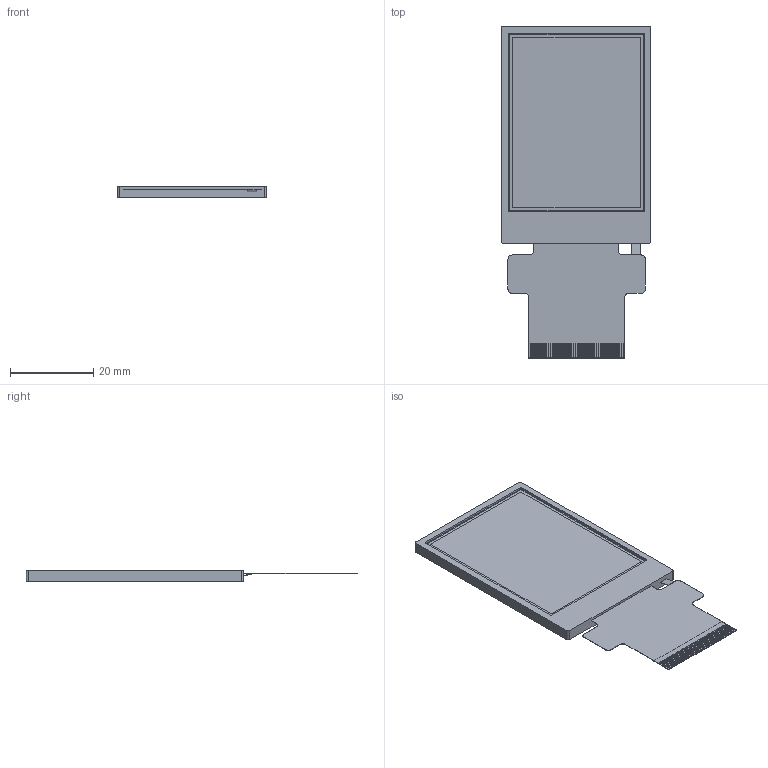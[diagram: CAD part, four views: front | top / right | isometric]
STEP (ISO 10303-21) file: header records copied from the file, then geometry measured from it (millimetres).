
FILE_DESCRIPTION (( 'STEP AP214' ), '1' );
FILE_NAME ('CFAF240320X0-020T.STEP', '2022-12-12T22:20:50', ( '' ), ( '' ), 'SwSTEP 2.0', 'SolidWorks 2021', '' );
FILE_SCHEMA (( 'AUTOMOTIVE_DESIGN' ));
Length unit declared in the file: millimetre
Products named in the file (1): CFAF240320X0-020T
Bounding box: 35.8 x 79.53 x 2.65 mm (x, y, z)
Volume: 4327.4 mm3; surface area: 6055.4 mm2
Topology: 49 solids, 49 shells, 325 faces, 680 edges, 456 vertices
Faces by surface type: plane 309, cylinder 16
Entity records: 12463 total; most frequent: CARTESIAN_POINT 1462, DIRECTION 1364, ORIENTED_EDGE 1360, EDGE_CURVE 680, LINE 648, VECTOR 648, VERTEX_POINT 456, UNCERTAINTY_MEASURE_WITH_UNIT 368
